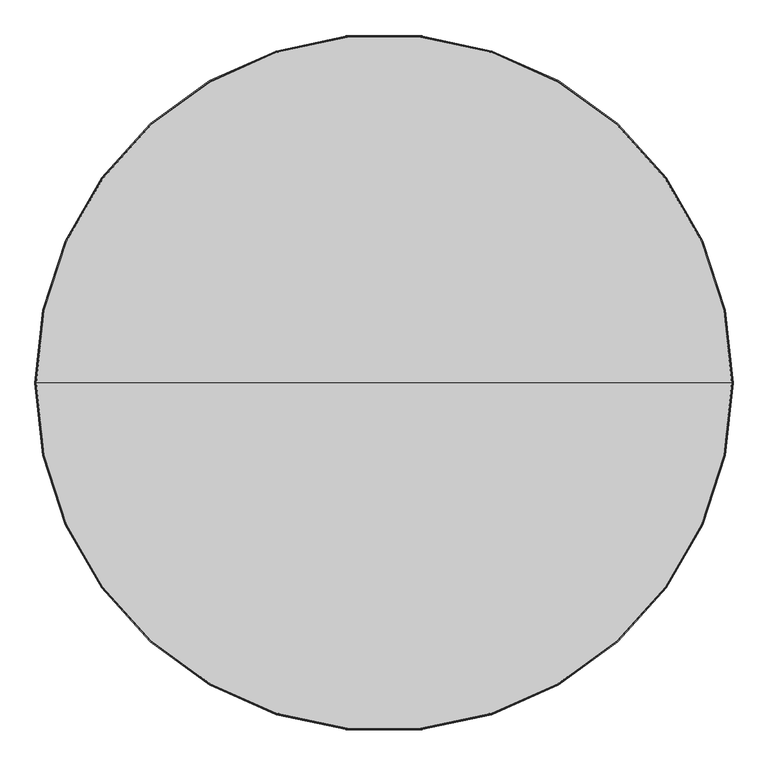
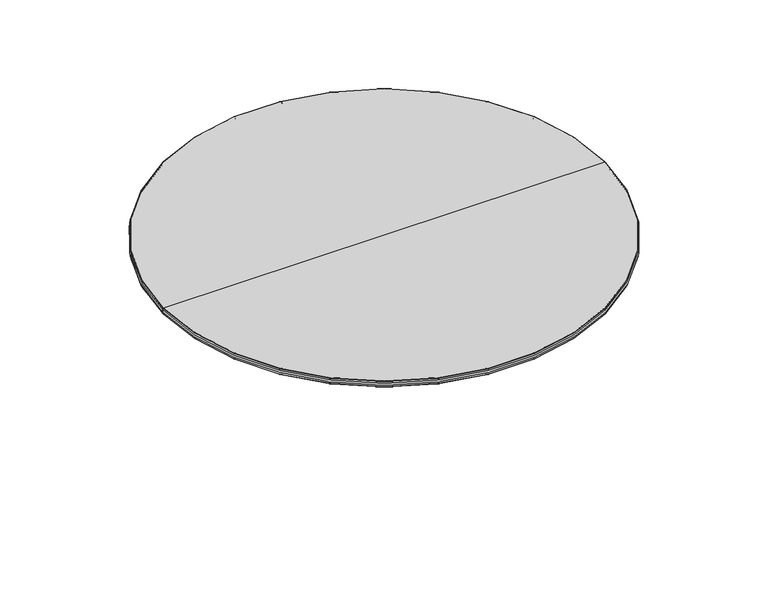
"""IFC4 building model written with IfcOpenShell, lengths in millimetres: furniture geometry, Furniture_Wilkhahn_622-45_Logon Circular Table : Logon 622/45_1800D x 730H."""

from ifc_helpers import new_model, si_unit, point, frame, frame_2d, origin, place, context, project, spatial, circle_curve, ellipse_curve, trimmed, segment, composite_curve, outline, extrude, source, transform, mapped, element, save
from ifc_brep_helpers import plane_surface, cylinder_surface, revolved_surface, advanced_brep


def furniture_81fbef08(model_context):
    return source(origin(), model_context, "Body", "SolidModel", [
        extrude(outline(composite_curve([segment(trimmed(circle_curve(frame_2d((503.0, 25.9511544)), 20.0), [point((503.0, 5.9511544))], [point((503.0, 45.9511544))], False, "CARTESIAN"), True, "CONTINUOUS"), segment(trimmed(circle_curve(frame_2d((503.0, 25.9511544)), 20.0), [point((503.0, 45.9511544))], [point((503.0, 5.9511544))], False, "CARTESIAN"), True, "CONTINUOUS")], self_intersect=False)), frame((0.0, 0.0, 140.0), z_axis=(0.0, 0.0, 1.0), x_axis=(1.0, 0.0, 0.0)), (0.0, 0.0, 1.0), 535.0),
        extrude(outline(composite_curve([segment(trimmed(circle_curve(frame_2d((397.0, 25.9511544)), 20.0), [point((397.0, 5.9511544))], [point((397.0, 45.9511544))], False, "CARTESIAN"), True, "CONTINUOUS"), segment(trimmed(circle_curve(frame_2d((397.0, 25.9511544)), 20.0), [point((397.0, 45.9511544))], [point((397.0, 5.9511544))], False, "CARTESIAN"), True, "CONTINUOUS")], self_intersect=False)), frame((0.0, 0.0, 140.0), z_axis=(0.0, 0.0, 1.0), x_axis=(1.0, 0.0, 0.0)), (0.0, 0.0, 1.0), 535.0),
        advanced_brep(
        [(0.0, 25.9511544, 703.9999792), (896.0, 25.9511544, 703.9999792), (-896.0, 25.9511544, 703.9999792), (-896.0257778, 25.9511544, 730.0), (896.0257778, 25.9511544, 730.0), (0.0, 25.9511544, 730.0), (-897.5, 25.9511544, 728.5257778), (897.5, 25.9511544, 728.5257778), (-897.5, 25.9511544, 721.3301166), (897.5, 25.9511544, 721.3301166), (-897.5, 25.9511544, 712.6698626), (897.5, 25.9511544, 712.6698626), (-897.5, 25.9511544, 705.4999792), (897.5, 25.9511544, 705.4999792)],
        [
            (0, 1),
            (1, 2, circle_curve(frame((0.0, 25.9511544, 703.9999792), z_axis=(0.0, 0.0, -1.0), x_axis=(1.0, 0.0, 0.0)), 896.0)),
            (2, 0),
            (2, 1, circle_curve(frame((0.0, 25.9511544, 703.9999792), z_axis=(0.0, 0.0, -1.0), x_axis=(1.0, 0.0, 0.0)), 896.0)),
            (3, 4, circle_curve(frame((0.0, 25.9511544, 730.0), z_axis=(0.0, 0.0, 1.0), x_axis=(1.0, 0.0, 0.0)), 896.0257778)),
            (4, 5),
            (5, 3),
            (4, 3, circle_curve(frame((0.0, 25.9511544, 730.0), z_axis=(0.0, 0.0, 1.0), x_axis=(1.0, 0.0, 0.0)), 896.0257778)),
            (6, 7, circle_curve(frame((0.0, 25.9511544, 728.5257778), z_axis=(0.0, 0.0, 1.0), x_axis=(1.0, 0.0, 0.0)), 897.5)),
            (7, 4, circle_curve(frame((896.0257778, 25.9511544, 728.5257778), z_axis=(0.0, -1.0, 0.0), x_axis=(-1.0, 0.0, 0.0)), 1.4742222)),
            (3, 6, circle_curve(frame((-896.0257778, 25.9511544, 728.5257778), z_axis=(0.0, -1.0, 0.0), x_axis=(1.0, 0.0, 0.0)), 1.4742222)),
            (7, 6, circle_curve(frame((0.0, 25.9511544, 728.5257778), z_axis=(0.0, 0.0, 1.0), x_axis=(1.0, 0.0, 0.0)), 897.5)),
            (8, 9, circle_curve(frame((0.0, 25.9511544, 721.3301166), z_axis=(0.0, 0.0, 1.0), x_axis=(1.0, 0.0, 0.0)), 897.5)),
            (9, 7),
            (6, 8),
            (9, 8, circle_curve(frame((0.0, 25.9511544, 721.3301166), z_axis=(0.0, 0.0, 1.0), x_axis=(1.0, 0.0, 0.0)), 897.5)),
            (10, 11, circle_curve(frame((0.0, 25.9511544, 712.6698626), z_axis=(0.0, 0.0, 1.0), x_axis=(1.0, 0.0, 0.0)), 897.5)),
            (11, 9, circle_curve(frame((895.0306299, 25.9511544, 716.9999896), z_axis=(0.0, -1.0, 0.0), x_axis=(-1.0, 0.0, 0.0)), 4.9847556)),
            (8, 10, circle_curve(frame((-895.0306299, 25.9511544, 716.9999896), z_axis=(0.0, -1.0, 0.0), x_axis=(1.0, 0.0, 0.0)), 4.9847556)),
            (11, 10, circle_curve(frame((0.0, 25.9511544, 712.6698626), z_axis=(0.0, 0.0, 1.0), x_axis=(1.0, 0.0, 0.0)), 897.5)),
            (12, 13, circle_curve(frame((0.0, 25.9511544, 705.4999792), z_axis=(0.0, 0.0, 1.0), x_axis=(1.0, 0.0, 0.0)), 897.5)),
            (13, 11),
            (10, 12),
            (13, 12, circle_curve(frame((0.0, 25.9511544, 705.4999792), z_axis=(0.0, 0.0, 1.0), x_axis=(1.0, 0.0, 0.0)), 897.5)),
            (1, 13, circle_curve(frame((896.0, 25.9511544, 705.4999792), z_axis=(0.0, -1.0, 0.0), x_axis=(-1.0, 0.0, 0.0)), 1.5)),
            (12, 2, circle_curve(frame((-896.0, 25.9511544, 705.4999792), z_axis=(0.0, -1.0, 0.0), x_axis=(1.0, 0.0, 0.0)), 1.5)),
        ],
        [
            plane_surface(frame((0.0, 25.9511544, 703.9999792), z_axis=(0.0, 0.0, -1.0), x_axis=(1.0, 0.0, 0.0))),
            plane_surface(frame((0.0, 25.9511544, 730.0), z_axis=(0.0, 0.0, 1.0), x_axis=(1.0, 0.0, 0.0))),
            revolved_surface(trimmed(ellipse_curve(frame((896.0257778, 25.9511544, 728.5257778), z_axis=(0.0, 1.0, 0.0), x_axis=(-1.0, 0.0, 0.0)), 1.4742222, 1.4742222), [point((896.0257778, 25.9511544, 730.0))], [point((897.5, 25.9511544, 728.5257778))], True, "CARTESIAN"), (0.0, 25.9511544, 790.0), (0.0, 0.0, -1.0)),
            cylinder_surface(frame((0.0, 25.9511544, 790.0), z_axis=(0.0, 0.0, -1.0), x_axis=(1.0, 0.0, 0.0)), 897.5),
            revolved_surface(trimmed(ellipse_curve(frame((895.0306299, 25.9511544, 716.9999896), z_axis=(0.0, 1.0, 0.0), x_axis=(-1.0, 0.0, 0.0)), 4.9847556, 4.9847556), [point((897.5, 25.9511544, 721.3301166))], [point((897.5, 25.9511544, 712.6698626))], True, "CARTESIAN"), (0.0, 25.9511544, 790.0), (0.0, 0.0, -1.0)),
            revolved_surface(trimmed(ellipse_curve(frame((896.0, 25.9511544, 705.4999792), z_axis=(0.0, 1.0, 0.0), x_axis=(-1.0, 0.0, 0.0)), 1.5, 1.5), [point((897.5, 25.9511544, 705.4999792))], [point((896.0, 25.9511544, 703.9999792))], True, "CARTESIAN"), (0.0, 25.9511544, 790.0), (0.0, 0.0, -1.0)),
        ],
        [
            (0, [[1, 2, 3]]),
            (0, [[-3, 4, -1]]),
            (1, [[5, 6, 7]]),
            (1, [[8, -7, -6]]),
            (2, [[9, 10, -5, 11]]),
            (2, [[12, -11, -8, -10]]),
            (3, [[13, 14, -9, 15]]),
            (3, [[16, -15, -12, -14]]),
            (4, [[17, 18, -13, 19]]),
            (4, [[20, -19, -16, -18]]),
            (3, [[21, 22, -17, 23]]),
            (3, [[24, -23, -20, -22]]),
            (5, [[-2, 25, -21, 26]]),
            (5, [[-4, -26, -24, -25]]),
        ],
    ),
    ])


if __name__ == "__main__":
    model = new_model("IFC4")
    model_context = context("Model", 3, world=origin())
    ifc_project = project(units=[si_unit("LENGTHUNIT", "METRE", prefix="MILLI")], contexts=[model_context])
    site = spatial("IfcSite", under=ifc_project)
    building = spatial("IfcBuilding", under=site)
    placement = place(None, origin())
    furniture_shape = furniture_81fbef08(model_context)
    element("IfcFurniture", 1, ObjectType="Furniture_Wilkhahn_622-45_Logon Circular Table : Logon 622/45_1800D x 730H", at=placement, inside=building, context=model_context, shape_type="MappedRepresentation", body=[
        mapped(furniture_shape, transform((0.0, 0.0, 0.0), x_axis=(1.0, 0.0, 0.0), y_axis=(0.0, 1.0, 0.0), z_axis=(0.0, 0.0, 1.0))),
    ])
    save(model, "model.ifc")
